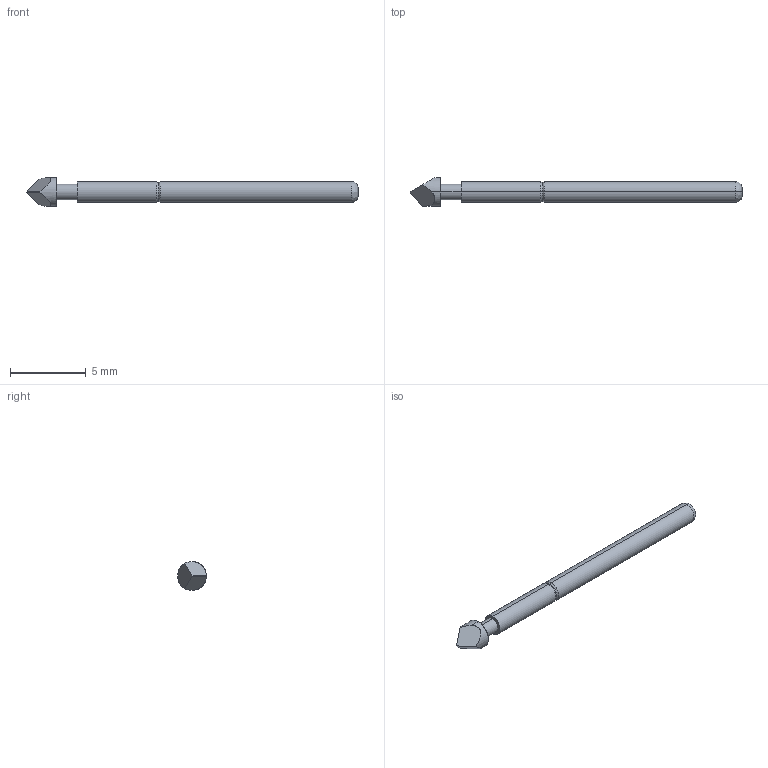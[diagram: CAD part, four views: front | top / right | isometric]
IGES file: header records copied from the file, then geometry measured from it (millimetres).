
Start section: SolidWorks IGES file using analytic representation for surfaces
Global section: file name: Z:\probe solid model mockups\Solidworks models\IGES Files\EPA-2\EPA-2T RECD.IGS; native system: SolidWorks 2006 by SolidWorks Corporation; preprocessor: SolidWorks 2006 by SolidWorks Corporation; author: tsakatani; date: 071220.162501; units: inch
Bounding box: 21.92 x 1.91 x 1.91 mm (x, y, z)
Surface area: 97.3 mm2 (no closed solid volume)
Topology: 0 solids, 0 shells, 20 faces, 204 edges, 204 vertices
Faces by surface type: bspline 12, revolution 8
